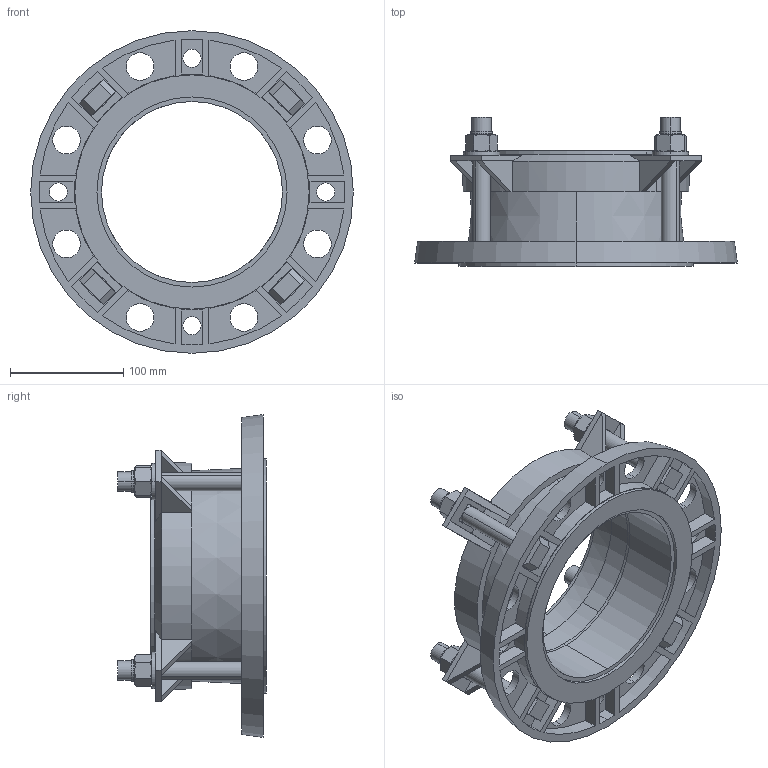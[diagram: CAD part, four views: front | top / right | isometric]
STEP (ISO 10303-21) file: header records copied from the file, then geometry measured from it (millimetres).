
FILE_DESCRIPTION (( 'STEP AP203' ), '1' );
FILE_NAME ('O_623_10_DN150-160mm_X1XXXXX_REV01.step', '2020-04-17T08:53:08', ( '' ), ( '' ), 'SwSTEP 2.0', 'SolidWorks 2019', '' );
FILE_SCHEMA (( 'CONFIG_CONTROL_DESIGN' ));
Length unit declared in the file: millimetre
Products named in the file (1): O_623_10_DN150-160mm_X1XXXXX_REV01
Bounding box: 285 x 131.5 x 285 mm (x, y, z)
Volume: 1454474.1 mm3; surface area: 286881.7 mm2
Topology: 1 solids, 1 shells, 462 faces, 1153 edges, 730 vertices
Faces by surface type: plane 234, cylinder 154, cone 72, bspline 2
Entity records: 14416 total; most frequent: CARTESIAN_POINT 3310, ORIENTED_EDGE 2306, DIRECTION 2257, EDGE_CURVE 1153, AXIS2_PLACEMENT_3D 853, VERTEX_POINT 730, LINE 551, VECTOR 551
